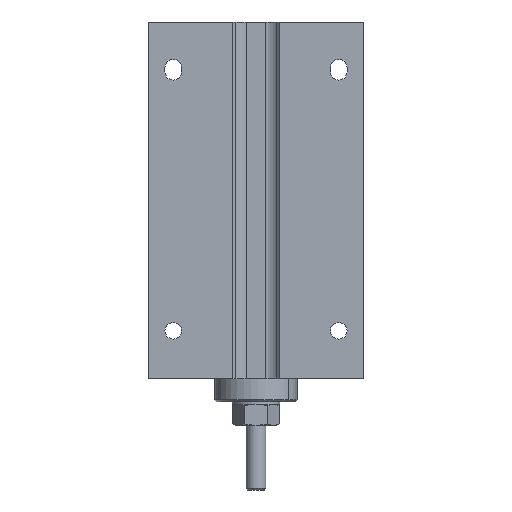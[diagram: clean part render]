
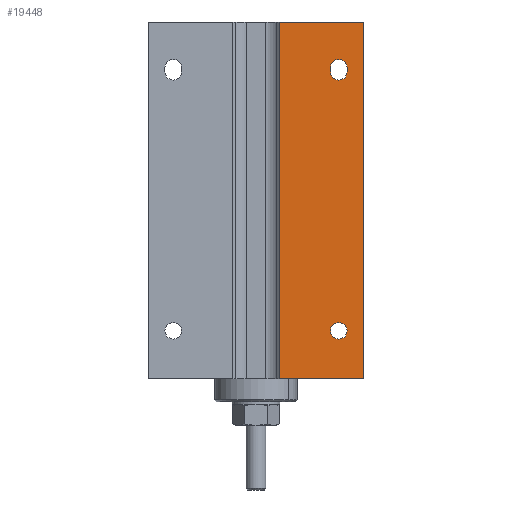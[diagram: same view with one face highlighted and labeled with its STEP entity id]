
A CAD part, front view. The second image highlights one B-rep face of the part: STEP entity #19448.
In plain terms, the highlighted planar face has unit normal (0, -1, 0).
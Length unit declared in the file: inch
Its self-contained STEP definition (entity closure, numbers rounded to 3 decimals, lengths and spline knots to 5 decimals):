
#111 = CIRCLE ( 'NONE', #39485, 0.13 ) ;
#474 = VECTOR ( 'NONE', #1941, 39.37008 ) ;
#612 = DIRECTION ( 'NONE',  ( 1., 0., 0. ) ) ;
#627 = EDGE_CURVE ( 'NONE', #37143, #33115, #31812, .T. ) ;
#681 = FACE_OUTER_BOUND ( 'NONE', #20785, .T. ) ;
#1039 = ORIENTED_EDGE ( 'NONE', *, *, #13420, .T. ) ;
#1291 = CARTESIAN_POINT ( 'NONE',  ( 0.36223, -1.22573, 0. ) ) ;
#1941 = DIRECTION ( 'NONE',  ( 1., 0., 0. ) ) ;
#2150 = EDGE_CURVE ( 'NONE', #35145, #32765, #11337, .T. ) ;
#2576 = DIRECTION ( 'NONE',  ( 0., 1., 0. ) ) ;
#2775 = CARTESIAN_POINT ( 'NONE',  ( 1.3, -1.22573, 0.75 ) ) ;
#3216 = CARTESIAN_POINT ( 'NONE',  ( 1.43, -1.22573, 5.6 ) ) ;
#3300 = DIRECTION ( 'NONE',  ( 0., 0., -1. ) ) ;
#3417 = CARTESIAN_POINT ( 'NONE',  ( 1.43, -1.22573, 4.8185 ) ) ;
#3751 = AXIS2_PLACEMENT_3D ( 'NONE', #7573, #12433, #24330 ) ;
#4933 = VECTOR ( 'NONE', #3300, 39.37008 ) ;
#5437 = LINE ( 'NONE', #48324, #13342 ) ;
#7007 = AXIS2_PLACEMENT_3D ( 'NONE', #16848, #17365, #40784 ) ;
#7573 = CARTESIAN_POINT ( 'NONE',  ( 1.3, -1.22573, 4.8185 ) ) ;
#9326 = EDGE_CURVE ( 'NONE', #33770, #26505, #5437, .T. ) ;
#9586 = AXIS2_PLACEMENT_3D ( 'NONE', #13853, #2576, #25750 ) ;
#11337 = LINE ( 'NONE', #15188, #44506 ) ;
#11449 = EDGE_LOOP ( 'NONE', ( #38495, #1039 ) ) ;
#11737 = CIRCLE ( 'NONE', #36469, 0.13 ) ;
#11920 = ORIENTED_EDGE ( 'NONE', *, *, #2150, .F. ) ;
#12433 = DIRECTION ( 'NONE',  ( 0., -1., 0. ) ) ;
#13342 = VECTOR ( 'NONE', #21891, 39.37008 ) ;
#13413 = CARTESIAN_POINT ( 'NONE',  ( 1.6875, -1.22573, 5.6 ) ) ;
#13420 = EDGE_CURVE ( 'NONE', #33115, #37143, #111, .T. ) ;
#13853 = CARTESIAN_POINT ( 'NONE',  ( 1.3, -1.22573, 0.75 ) ) ;
#13995 = LINE ( 'NONE', #3216, #44595 ) ;
#14195 = LINE ( 'NONE', #29965, #39500 ) ;
#14962 = EDGE_CURVE ( 'NONE', #41549, #37779, #11737, .T. ) ;
#15188 = CARTESIAN_POINT ( 'NONE',  ( 1.6875, -1.22573, 18. ) ) ;
#16848 = CARTESIAN_POINT ( 'NONE',  ( 1.3, -1.22573, 4.8815 ) ) ;
#17365 = DIRECTION ( 'NONE',  ( 0., -1., 0. ) ) ;
#19448 = ADVANCED_FACE ( 'NONE', ( #681, #47470, #38772 ), #35190, .T. ) ;
#20052 = CARTESIAN_POINT ( 'NONE',  ( 1.6875, -1.22573, 0. ) ) ;
#20448 = ORIENTED_EDGE ( 'NONE', *, *, #49854, .T. ) ;
#20785 = EDGE_LOOP ( 'NONE', ( #11920, #42933, #25723, #20448 ) ) ;
#21331 = AXIS2_PLACEMENT_3D ( 'NONE', #23595, #23102, #39272 ) ;
#21891 = DIRECTION ( 'NONE',  ( 0., 0., -1. ) ) ;
#22189 = EDGE_CURVE ( 'NONE', #45587, #36573, #13995, .T. ) ;
#23102 = DIRECTION ( 'NONE',  ( 0., -1., 0. ) ) ;
#23595 = CARTESIAN_POINT ( 'NONE',  ( 0.36223, -1.22573, 18. ) ) ;
#24330 = DIRECTION ( 'NONE',  ( 0., 0., -1. ) ) ;
#24861 = CARTESIAN_POINT ( 'NONE',  ( 0.00001, -1.22573, 0. ) ) ;
#24972 = CARTESIAN_POINT ( 'NONE',  ( 1.43, -1.22573, 4.8815 ) ) ;
#25146 = CARTESIAN_POINT ( 'NONE',  ( 1.3, -1.22573, 4.8815 ) ) ;
#25522 = CARTESIAN_POINT ( 'NONE',  ( 1.3, -1.22573, 0.88 ) ) ;
#25723 = ORIENTED_EDGE ( 'NONE', *, *, #9326, .T. ) ;
#25750 = DIRECTION ( 'NONE',  ( 0., 0., -1. ) ) ;
#26305 = DIRECTION ( 'NONE',  ( 0., 0., -1. ) ) ;
#26505 = VERTEX_POINT ( 'NONE', #1291 ) ;
#28416 = CIRCLE ( 'NONE', #3751, 0.13 ) ;
#28422 = EDGE_LOOP ( 'NONE', ( #38067, #38742, #41562, #46088, #50546 ) ) ;
#29965 = CARTESIAN_POINT ( 'NONE',  ( 0.00001, -1.22573, 5.6 ) ) ;
#30018 = CARTESIAN_POINT ( 'NONE',  ( 0.36223, -1.22573, 5.6 ) ) ;
#30704 = EDGE_CURVE ( 'NONE', #36573, #41549, #31692, .T. ) ;
#31692 = CIRCLE ( 'NONE', #7007, 0.13 ) ;
#31812 = CIRCLE ( 'NONE', #9586, 0.13 ) ;
#32765 = VERTEX_POINT ( 'NONE', #20052 ) ;
#33115 = VERTEX_POINT ( 'NONE', #25522 ) ;
#33420 = CARTESIAN_POINT ( 'NONE',  ( 1.3, -1.22573, 0.62 ) ) ;
#33770 = VERTEX_POINT ( 'NONE', #30018 ) ;
#35145 = VERTEX_POINT ( 'NONE', #13413 ) ;
#35190 = PLANE ( 'NONE',  #21331 ) ;
#35375 = CARTESIAN_POINT ( 'NONE',  ( 1.3, -1.22573, 5.0115 ) ) ;
#35541 = VERTEX_POINT ( 'NONE', #44009 ) ;
#36258 = EDGE_CURVE ( 'NONE', #33770, #35145, #14195, .T. ) ;
#36469 = AXIS2_PLACEMENT_3D ( 'NONE', #25146, #40818, #50625 ) ;
#36573 = VERTEX_POINT ( 'NONE', #24972 ) ;
#37143 = VERTEX_POINT ( 'NONE', #33420 ) ;
#37779 = VERTEX_POINT ( 'NONE', #44131 ) ;
#38067 = ORIENTED_EDGE ( 'NONE', *, *, #30704, .F. ) ;
#38495 = ORIENTED_EDGE ( 'NONE', *, *, #627, .T. ) ;
#38742 = ORIENTED_EDGE ( 'NONE', *, *, #22189, .F. ) ;
#38772 = FACE_BOUND ( 'NONE', #28422, .T. ) ;
#39272 = DIRECTION ( 'NONE',  ( 0., 0., -1. ) ) ;
#39485 = AXIS2_PLACEMENT_3D ( 'NONE', #2775, #49794, #45698 ) ;
#39500 = VECTOR ( 'NONE', #612, 39.37008 ) ;
#40784 = DIRECTION ( 'NONE',  ( 0., 0., -1. ) ) ;
#40818 = DIRECTION ( 'NONE',  ( 0., -1., 0. ) ) ;
#41272 = LINE ( 'NONE', #24861, #474 ) ;
#41537 = DIRECTION ( 'NONE',  ( 0., 0., 1. ) ) ;
#41549 = VERTEX_POINT ( 'NONE', #35375 ) ;
#41562 = ORIENTED_EDGE ( 'NONE', *, *, #42318, .F. ) ;
#42318 = EDGE_CURVE ( 'NONE', #35541, #45587, #28416, .T. ) ;
#42393 = LINE ( 'NONE', #46494, #4933 ) ;
#42933 = ORIENTED_EDGE ( 'NONE', *, *, #36258, .F. ) ;
#44009 = CARTESIAN_POINT ( 'NONE',  ( 1.17, -1.22573, 4.8185 ) ) ;
#44131 = CARTESIAN_POINT ( 'NONE',  ( 1.17, -1.22573, 4.8815 ) ) ;
#44506 = VECTOR ( 'NONE', #26305, 39.37008 ) ;
#44595 = VECTOR ( 'NONE', #41537, 39.37008 ) ;
#45587 = VERTEX_POINT ( 'NONE', #3417 ) ;
#45698 = DIRECTION ( 'NONE',  ( 0., 0., -1. ) ) ;
#46088 = ORIENTED_EDGE ( 'NONE', *, *, #47051, .F. ) ;
#46494 = CARTESIAN_POINT ( 'NONE',  ( 1.17, -1.22573, 5.6 ) ) ;
#47051 = EDGE_CURVE ( 'NONE', #37779, #35541, #42393, .T. ) ;
#47470 = FACE_BOUND ( 'NONE', #11449, .T. ) ;
#48324 = CARTESIAN_POINT ( 'NONE',  ( 0.36223, -1.22573, 18. ) ) ;
#49794 = DIRECTION ( 'NONE',  ( 0., 1., 0. ) ) ;
#49854 = EDGE_CURVE ( 'NONE', #26505, #32765, #41272, .T. ) ;
#50546 = ORIENTED_EDGE ( 'NONE', *, *, #14962, .F. ) ;
#50625 = DIRECTION ( 'NONE',  ( 0., 0., -1. ) ) ;
